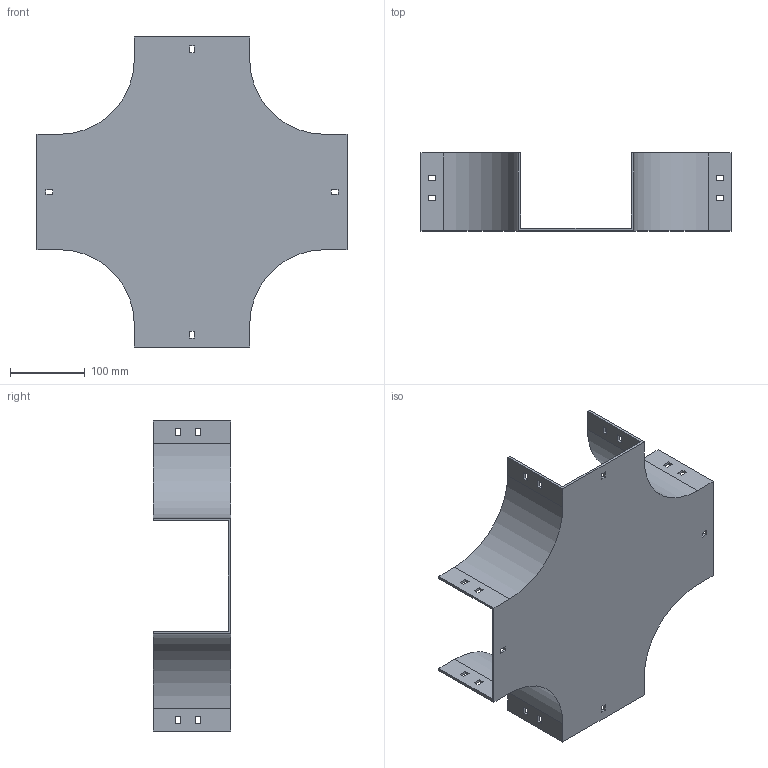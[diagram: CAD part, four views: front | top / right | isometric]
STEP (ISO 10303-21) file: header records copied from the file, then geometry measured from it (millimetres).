
FILE_DESCRIPTION (( 'STEP AP214' ), '1' );
FILE_NAME ('17F1D150.step', '2025-02-21T13:05:06', ( '' ), ( '' ), 'SwSTEP 2.0', 'SolidWorks 2023', '' );
FILE_SCHEMA (( 'AUTOMOTIVE_DESIGN' ));
Length unit declared in the file: millimetre
Products named in the file (1): 17F1D150
Bounding box: 414 x 104 x 414 mm (x, y, z)
Volume: 697890 mm3; surface area: 409141.4 mm2
Topology: 1 solids, 1 shells, 114 faces, 336 edges, 224 vertices
Faces by surface type: plane 106, cylinder 8
Entity records: 3839 total; most frequent: CARTESIAN_POINT 675, ORIENTED_EDGE 672, DIRECTION 582, EDGE_CURVE 336, VECTOR 320, LINE 320, VERTEX_POINT 224, EDGE_LOOP 154
